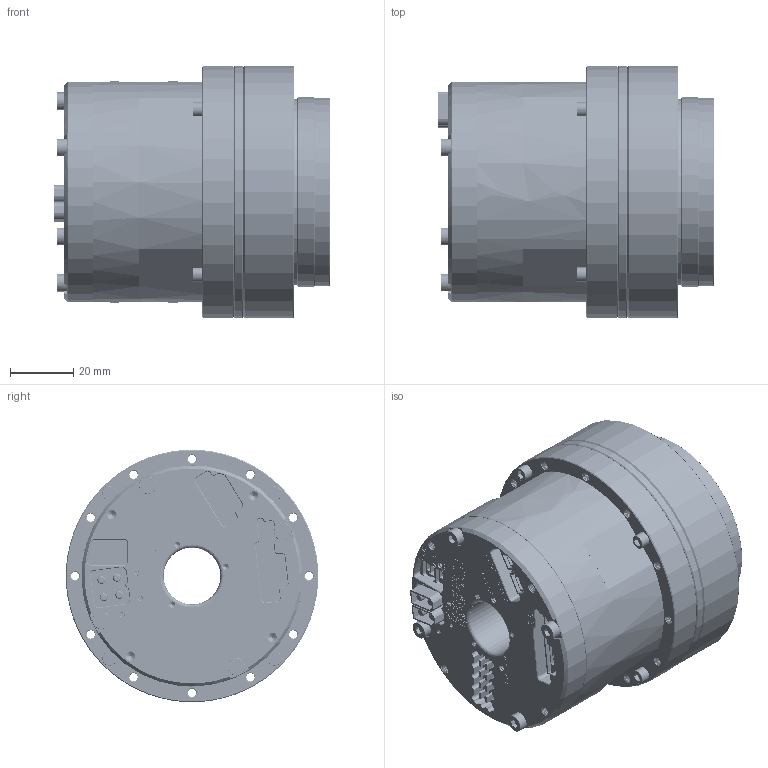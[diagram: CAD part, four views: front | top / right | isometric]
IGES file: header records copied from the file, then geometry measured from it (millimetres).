
Start section: SolidWorks IGES file using analytic representation for surfaces
Global section: file name: 06HG:\李鸿彬\00 官网需更新模型\00官网需更新模型 源文件\I型 待整理\检查\eRob80H××I-XX-18EX_V5_MC2D.DX.XX.igs; native system: SolidWorks 2021; preprocessor: SolidWorks 2021; author: ZERO; date: 240521.183704; units: millimetre
Bounding box: 87.6 x 80 x 80 mm (x, y, z)
Surface area: 47798.4 mm2 (no closed solid volume)
Topology: 0 solids, 0 shells, 5092 faces, 66944 edges, 66870 vertices
Faces by surface type: bspline 3010, revolution 2082
